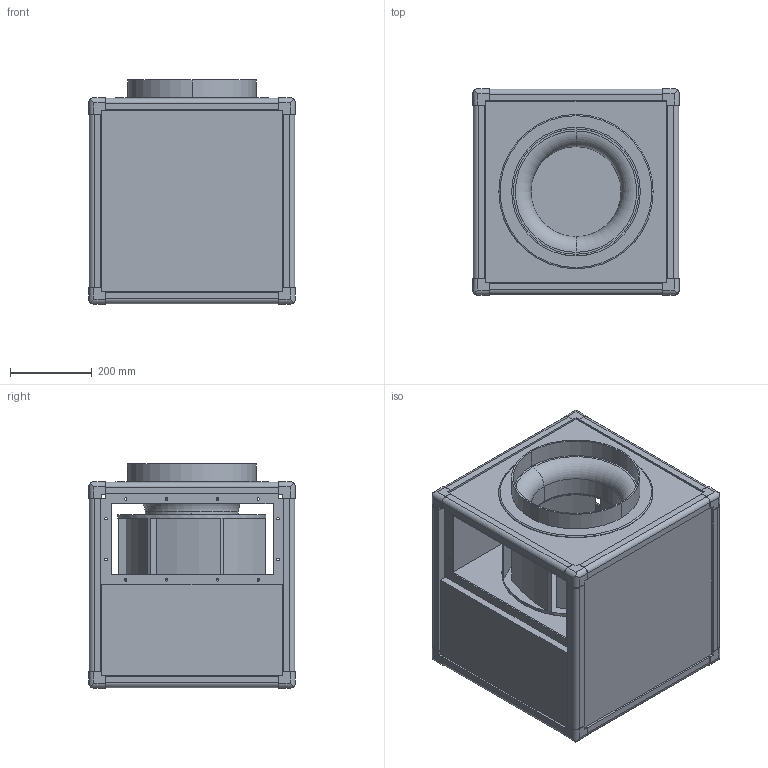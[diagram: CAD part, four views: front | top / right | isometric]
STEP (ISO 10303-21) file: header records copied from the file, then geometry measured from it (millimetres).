
FILE_DESCRIPTION(('STEP AP214'),'1');
FILE_NAME('fan_5148466100.stp','2017-09-06T16:17:46',('TraceParts'),('TraceParts S.A.'),'Spatial InterOp 3D',' ',' ');
FILE_SCHEMA(('automotive_design'));
Length unit declared in the file: millimetre
Products named in the file (1): fan_5148466100
Bounding box: 505 x 505 x 549 mm (x, y, z)
Volume: 32243506.5 mm3; surface area: 3803724.8 mm2
Topology: 1 solids, 1 shells, 685 faces, 2018 edges, 1305 vertices
Faces by surface type: plane 563, cylinder 116, torus 6
Entity records: 26391 total; most frequent: ORIENTED_EDGE 4036, CARTESIAN_POINT 4009, DIRECTION 3657, EDGE_CURVE 2018, LINE 1751, VECTOR 1751, VERTEX_POINT 1305, AXIS2_PLACEMENT_3D 953
